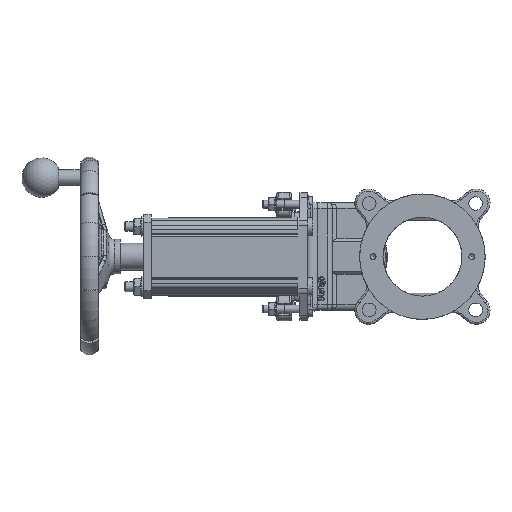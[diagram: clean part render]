
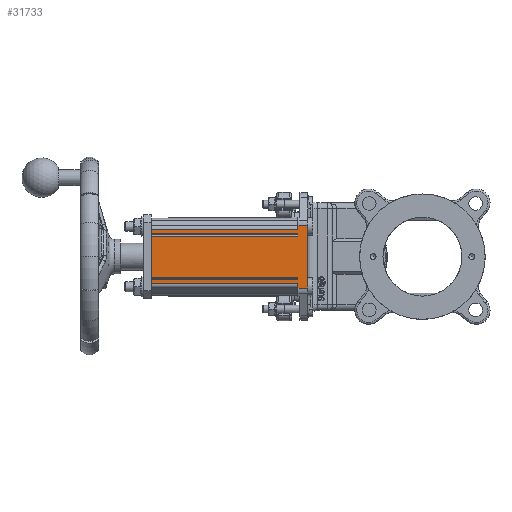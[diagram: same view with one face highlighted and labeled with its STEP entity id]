
A CAD part, left-side view. The second image highlights one B-rep face of the part: STEP entity #31733.
In plain terms, the highlighted planar face has unit normal (-1, 0, 0).
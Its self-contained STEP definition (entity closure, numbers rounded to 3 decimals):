
#2056=LINE('',#42622,#4417);
#2062=LINE('',#42637,#4423);
#2064=LINE('',#42647,#4425);
#2067=LINE('',#42654,#4428);
#3074=LINE('',#50231,#5435);
#3082=LINE('',#50258,#5443);
#3084=LINE('',#50261,#5445);
#3918=LINE('',#60018,#6279);
#3921=LINE('',#60024,#6282);
#3924=LINE('',#60030,#6285);
#4237=LINE('',#61861,#6598);
#4238=LINE('',#61863,#6599);
#4240=LINE('',#61866,#6601);
#4241=LINE('',#61868,#6602);
#4243=LINE('',#61871,#6604);
#4244=LINE('',#61873,#6605);
#4417=VECTOR('',#34815,10.);
#4423=VECTOR('',#34825,10.);
#4425=VECTOR('',#34833,10.);
#4428=VECTOR('',#34838,10.);
#5435=VECTOR('',#37329,10.);
#5443=VECTOR('',#37353,10.);
#5445=VECTOR('',#37357,10.);
#6279=VECTOR('',#41211,10.);
#6282=VECTOR('',#41214,10.);
#6285=VECTOR('',#41217,10.);
#6598=VECTOR('',#42038,10.);
#6599=VECTOR('',#42041,10.);
#6601=VECTOR('',#42045,10.);
#6602=VECTOR('',#42048,10.);
#6604=VECTOR('',#42052,10.);
#6605=VECTOR('',#42055,10.);
#8586=FACE_OUTER_BOUND('',#10496,.T.);
#10496=EDGE_LOOP('',(#28316,#28317,#28318,#28319,#28320,#28321,#28322,#28323,
#28324,#28325,#28326,#28327,#28328,#28329,#28330,#28331));
#11937=VERTEX_POINT('',#42571);
#11961=VERTEX_POINT('',#42619);
#11962=VERTEX_POINT('',#42621);
#11969=VERTEX_POINT('',#42635);
#11972=VERTEX_POINT('',#42643);
#11974=VERTEX_POINT('',#42646);
#11975=VERTEX_POINT('',#42650);
#11977=VERTEX_POINT('',#42653);
#13113=VERTEX_POINT('',#50228);
#13114=VERTEX_POINT('',#50230);
#14358=VERTEX_POINT('',#60015);
#14359=VERTEX_POINT('',#60017);
#14361=VERTEX_POINT('',#60021);
#14362=VERTEX_POINT('',#60023);
#14364=VERTEX_POINT('',#60027);
#14365=VERTEX_POINT('',#60029);
#14913=EDGE_CURVE('',#11961,#11962,#2056,.T.);
#14921=EDGE_CURVE('',#11969,#11937,#2062,.T.);
#14925=EDGE_CURVE('',#11972,#11974,#2064,.T.);
#14928=EDGE_CURVE('',#11975,#11977,#2067,.T.);
#16677=EDGE_CURVE('',#13113,#13114,#3074,.T.);
#16691=EDGE_CURVE('',#11962,#13113,#3082,.T.);
#16693=EDGE_CURVE('',#13114,#11969,#3084,.T.);
#18732=EDGE_CURVE('',#14358,#14359,#3918,.T.);
#18735=EDGE_CURVE('',#14361,#14362,#3921,.T.);
#18738=EDGE_CURVE('',#14364,#14365,#3924,.T.);
#19261=EDGE_CURVE('',#11961,#14365,#4237,.T.);
#19262=EDGE_CURVE('',#11974,#14364,#4238,.T.);
#19264=EDGE_CURVE('',#11972,#14362,#4240,.T.);
#19265=EDGE_CURVE('',#11977,#14361,#4241,.T.);
#19267=EDGE_CURVE('',#11975,#14359,#4243,.T.);
#19268=EDGE_CURVE('',#11937,#14358,#4244,.T.);
#28316=ORIENTED_EDGE('',*,*,#19267,.T.);
#28317=ORIENTED_EDGE('',*,*,#18732,.F.);
#28318=ORIENTED_EDGE('',*,*,#19268,.F.);
#28319=ORIENTED_EDGE('',*,*,#14921,.F.);
#28320=ORIENTED_EDGE('',*,*,#16693,.F.);
#28321=ORIENTED_EDGE('',*,*,#16677,.F.);
#28322=ORIENTED_EDGE('',*,*,#16691,.F.);
#28323=ORIENTED_EDGE('',*,*,#14913,.F.);
#28324=ORIENTED_EDGE('',*,*,#19261,.T.);
#28325=ORIENTED_EDGE('',*,*,#18738,.F.);
#28326=ORIENTED_EDGE('',*,*,#19262,.F.);
#28327=ORIENTED_EDGE('',*,*,#14925,.F.);
#28328=ORIENTED_EDGE('',*,*,#19264,.T.);
#28329=ORIENTED_EDGE('',*,*,#18735,.F.);
#28330=ORIENTED_EDGE('',*,*,#19265,.F.);
#28331=ORIENTED_EDGE('',*,*,#14928,.F.);
#29327=PLANE('',#34432);
#31733=ADVANCED_FACE('',(#8586),#29327,.T.);
#34432=AXIS2_PLACEMENT_3D('',#61872,#42053,#42054);
#34815=DIRECTION('',(0.,0.,1.));
#34825=DIRECTION('',(0.,0.,1.));
#34833=DIRECTION('',(0.,0.,1.));
#34838=DIRECTION('',(0.,0.,1.));
#37329=DIRECTION('',(0.,0.,-1.));
#37353=DIRECTION('',(0.,-1.,0.));
#37357=DIRECTION('',(0.,1.,0.));
#41211=DIRECTION('',(0.,0.,1.));
#41214=DIRECTION('',(0.,0.,1.));
#41217=DIRECTION('',(0.,0.,1.));
#42038=DIRECTION('',(0.,1.,0.));
#42041=DIRECTION('',(0.,1.,0.));
#42045=DIRECTION('',(0.,1.,0.));
#42048=DIRECTION('',(0.,1.,0.));
#42052=DIRECTION('',(0.,1.,0.));
#42053=DIRECTION('center_axis',(-1.,0.,0.));
#42054=DIRECTION('ref_axis',(0.,0.,
1.));
#42055=DIRECTION('',(0.,1.,0.));
#42571=CARTESIAN_POINT('',(-40.,126.,-27.517));
#42619=CARTESIAN_POINT('',(-40.,126.,27.517));
#42621=CARTESIAN_POINT('',(-40.,126.,31.727));
#42622=CARTESIAN_POINT('',(-40.,126.,-31.727));
#42635=CARTESIAN_POINT('',(-40.,126.,-31.727));
#42637=CARTESIAN_POINT('',(-40.,126.,-31.727));
#42643=CARTESIAN_POINT('',(-40.,126.,20.701));
#42646=CARTESIAN_POINT('',(-40.,126.,23.299));
#42647=CARTESIAN_POINT('',(-40.,126.,-31.727));
#42650=CARTESIAN_POINT('',(-40.,126.,-23.299));
#42653=CARTESIAN_POINT('',(-40.,126.,-20.701));
#42654=CARTESIAN_POINT('',(-40.,126.,-31.727));
#50228=CARTESIAN_POINT('',(-40.,116.,31.727));
#50230=CARTESIAN_POINT('',(-40.,116.,-31.727));
#50231=CARTESIAN_POINT('',(-40.,116.,-64.5));
#50258=CARTESIAN_POINT('',(-40.,124.,31.727));
#50261=CARTESIAN_POINT('',(-40.,124.,-31.727));
#60015=CARTESIAN_POINT('',(-40.,274.5,-27.517));
#60017=CARTESIAN_POINT('',(-40.,274.5,-23.299));
#60018=CARTESIAN_POINT('',(-40.,274.5,-27.517));
#60021=CARTESIAN_POINT('',(-40.,274.5,-20.701));
#60023=CARTESIAN_POINT('',(-40.,274.5,20.701));
#60024=CARTESIAN_POINT('',(-40.,274.5,-20.701));
#60027=CARTESIAN_POINT('',(-40.,274.5,23.299));
#60029=CARTESIAN_POINT('',(-40.,274.5,27.517));
#60030=CARTESIAN_POINT('',(-40.,274.5,23.299));
#61861=CARTESIAN_POINT('',(-40.,126.,27.517));
#61863=CARTESIAN_POINT('',(-40.,126.,23.299));
#61866=CARTESIAN_POINT('',(-40.,126.,20.701));
#61868=CARTESIAN_POINT('',(-40.,126.,-20.701));
#61871=CARTESIAN_POINT('',(-40.,126.,-23.299));
#61872=CARTESIAN_POINT('Origin',(-40.,126.,-27.517));
#61873=CARTESIAN_POINT('',(-40.,126.,-27.517));
